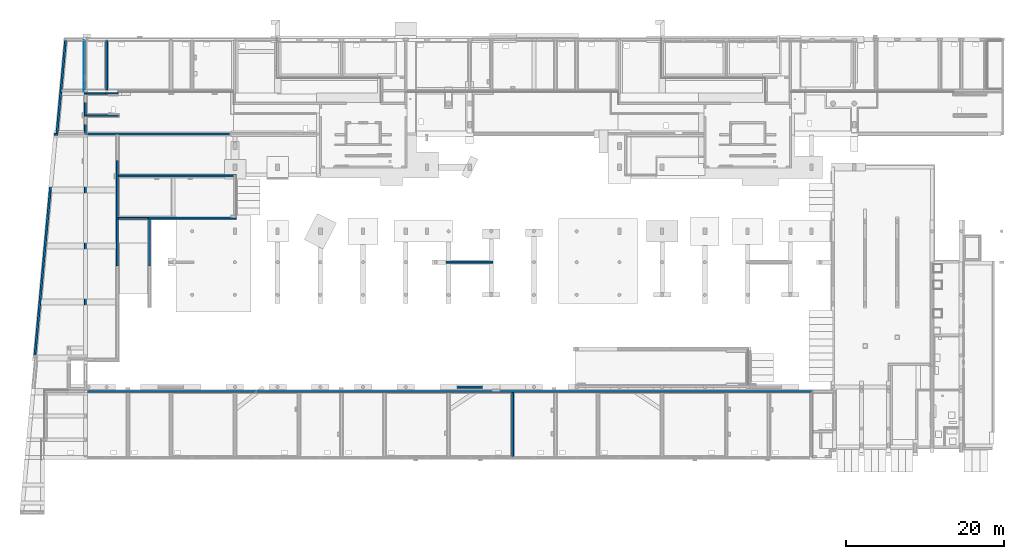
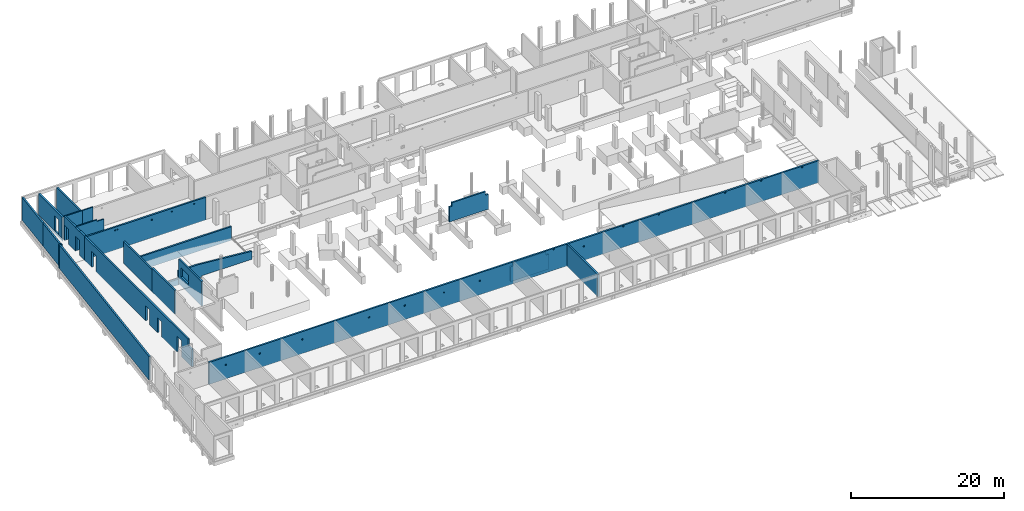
# One storey, part 40 of 60: 23 walls, 38 openings.
"""IFC2X3 building model written with IfcOpenShell, lengths in millimetres."""

from ifc_helpers import new_model, entity, si_unit, converted_unit, derived_unit, direction, frame, frame_2d, origin, origin_2d_with_axis, place, context, subcontext, project, spatial, rectangle, circle, extrude, clip, halfspace, material, layer, layer_set, layer_usage, type_object, element, save


model = new_model("IFC2X3")

# Units and contexts
model_context = context("Model", 3, precision=0.01, world=origin(), true_north=direction((6.12303176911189e-17, 1.0)))
body_context = subcontext(model_context, "Body", "Model", "MODEL_VIEW")
ifc_project = project(units=[si_unit("LENGTHUNIT", "METRE", prefix="MILLI"), si_unit("AREAUNIT", "SQUARE_METRE"), si_unit("VOLUMEUNIT", "CUBIC_METRE"), converted_unit("PLANEANGLEUNIT", "DEGREE", entity("IfcRatioMeasure", 0.0174532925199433), si_unit("PLANEANGLEUNIT", "RADIAN"), dimensions=[0, 0, 0, 0, 0, 0, 0]), si_unit("MASSUNIT", "GRAM", prefix="KILO"), derived_unit("MASSDENSITYUNIT", [(si_unit("MASSUNIT", "GRAM", prefix="KILO"), 1), (si_unit("LENGTHUNIT", "METRE"), -3)]), si_unit("TIMEUNIT", "SECOND"), si_unit("FREQUENCYUNIT", "HERTZ"), si_unit("THERMODYNAMICTEMPERATUREUNIT", "DEGREE_CELSIUS"), derived_unit("THERMALTRANSMITTANCEUNIT", [(si_unit("MASSUNIT", "GRAM", prefix="KILO"), 1), (si_unit("THERMODYNAMICTEMPERATUREUNIT", "KELVIN"), -1), (si_unit("TIMEUNIT", "SECOND"), -3)]), derived_unit("VOLUMETRICFLOWRATEUNIT", [(si_unit("LENGTHUNIT", "METRE"), 3), (si_unit("TIMEUNIT", "SECOND"), -1)]), si_unit("ELECTRICCURRENTUNIT", "AMPERE"), si_unit("ELECTRICVOLTAGEUNIT", "VOLT"), si_unit("POWERUNIT", "WATT"), si_unit("FORCEUNIT", "NEWTON", prefix="KILO"), si_unit("ILLUMINANCEUNIT", "LUX"), si_unit("LUMINOUSFLUXUNIT", "LUMEN"), si_unit("LUMINOUSINTENSITYUNIT", "CANDELA"), derived_unit("USERDEFINED", [(si_unit("MASSUNIT", "GRAM", prefix="KILO"), -1), (si_unit("LENGTHUNIT", "METRE"), -2), (si_unit("TIMEUNIT", "SECOND"), 3), (si_unit("LUMINOUSFLUXUNIT", "LUMEN"), 1)]), derived_unit("LINEARVELOCITYUNIT", [(si_unit("LENGTHUNIT", "METRE"), 1), (si_unit("TIMEUNIT", "SECOND"), -1)]), si_unit("PRESSUREUNIT", "PASCAL"), derived_unit("USERDEFINED", [(si_unit("LENGTHUNIT", "METRE"), -2), (si_unit("MASSUNIT", "GRAM", prefix="KILO"), 1), (si_unit("TIMEUNIT", "SECOND"), -2)])], contexts=[model_context])

# Site, building, storey
site_placement = place(None, origin())
site = spatial("IfcSite", under=ifc_project, at=site_placement, Name="Default", CompositionType="ELEMENT")
building_placement = place(site_placement, origin())
building = spatial("IfcBuilding", under=site, at=building_placement, Name="niet gebruiken", CompositionType="ELEMENT")
storey_placement = place(building_placement, origin())
storey = spatial("IfcBuildingStorey", under=building, at=storey_placement, Name="00 begane grond", CompositionType="ELEMENT", Elevation=0.0)

# Wall, openings
ifc_material_1 = material(Name="NLRS_f2_beton ihwg")
ifc_layer_1 = layer(ifc_material_1, 250.0)
ifc_layer_set_1 = layer_set([ifc_layer_1], Name="Basic Wall:NLRS_22.21_WA_beton ihwg d=250_gen")
ifc_layer_usage_1 = layer_usage(ifc_layer_set_1, "AXIS2", "NEGATIVE", 125.0)
wall_type_1 = type_object("IfcWallType", Name="Basic Wall:NLRS_22.21_WA_beton ihwg d=250_gen", PredefinedType="STANDARD", material=ifc_layer_set_1)
wall_1_placement = place(storey_placement, frame((26350.0, 41186.0, -70.0), z_axis=(0.0, 0.0, 1.0), x_axis=(-1.0, 0.0, 0.0)))
wall_1 = element("IfcWallStandardCase", 1, at=wall_1_placement, inside=storey, type_object=wall_type_1, material=ifc_layer_usage_1, Name="Basic Wall:NLRS_22.21_WA_beton ihwg d=250_gen", ObjectType="Basic Wall:NLRS_22.21_WA_beton ihwg d=250_gen", context=body_context, shape_type="SweptSolid", body=[
    extrude(rectangle(XDim=18124.9999999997, YDim=249.999999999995, at=frame_2d((9062.49999999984, 0.0), x_axis=(-1.0, 0.0))), origin(), (0.0, 0.0, 1.0), 3630.00000000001),
])
opening_1_placement = place(wall_1_placement, origin())
element("IfcOpeningElement", 2, at=opening_1_placement, cuts=wall_1, Name="Basic Wall:NLRS_22.21_WA_beton ihwg d=250_gen", ObjectType="Opening", context=body_context, shape_type="SweptSolid", body=[
    extrude(circle(Radius=125.0, at=origin_2d_with_axis()), frame((8175.0, -125.0, 2870.0), z_axis=(0.0, 1.0, 0.0), x_axis=(-1.0, 0.0, 0.0)), (0.0, 0.0, 1.0), 250.000000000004),
])
opening_2_placement = place(wall_1_placement, origin())
element("IfcOpeningElement", 3, at=opening_2_placement, cuts=wall_1, Name="Basic Wall:NLRS_22.21_WA_beton ihwg d=250_gen", ObjectType="Opening", context=body_context, shape_type="SweptSolid", body=[
    extrude(circle(Radius=100.0, at=origin_2d_with_axis()), frame((5174.9999760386, -125.0, 3140.0), z_axis=(0.0, 1.0, 0.0), x_axis=(-1.0, 0.0, 0.0)), (0.0, 0.0, 1.0), 250.000000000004),
])
opening_3_placement = place(wall_1_placement, origin())
element("IfcOpeningElement", 4, at=opening_3_placement, cuts=wall_1, Name="Basic Wall:NLRS_22.21_WA_beton ihwg d=250_gen", ObjectType="Opening", context=body_context, shape_type="SweptSolid", body=[
    extrude(circle(Radius=100.0, at=frame_2d((0.0, -5.41433564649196e-13), x_axis=(1.0, 0.0))), frame((1789.9999760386, -125.0, 3170.0), z_axis=(0.0, 1.0, 0.0), x_axis=(-1.0, 0.0, 0.0)), (0.0, 0.0, 1.0), 250.000000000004),
])
opening_4_placement = place(wall_1_placement, origin())
element("IfcOpeningElement", 5, at=opening_4_placement, cuts=wall_1, Name="Basic Wall:NLRS_22.21_WA_beton ihwg d=250_gen", ObjectType="Opening", context=body_context, shape_type="SweptSolid", body=[
    extrude(circle(Radius=100.0, at=frame_2d((0.0, -5.41433564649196e-13), x_axis=(1.0, 0.0))), frame((13375.0, -125.0, 3140.0), z_axis=(0.0, 1.0, 0.0), x_axis=(-1.0, 0.0, 0.0)), (0.0, 0.0, 1.0), 250.000000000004),
])
opening_5_placement = place(wall_1_placement, origin())
element("IfcOpeningElement", 6, at=opening_5_placement, cuts=wall_1, Name="Basic Wall:NLRS_22.21_WA_beton ihwg d=250_gen", ObjectType="Opening", context=body_context, shape_type="SweptSolid", body=[
    extrude(circle(Radius=100.0, at=frame_2d((0.0, -5.41433564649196e-13), x_axis=(1.0, 0.0))), frame((13725.0, -125.0, 3140.0), z_axis=(0.0, 1.0, 0.0), x_axis=(-1.0, 0.0, 0.0)), (0.0, 0.0, 1.0), 250.000000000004),
])

# Wall, opening
ifc_layer_usage_2 = layer_usage(ifc_layer_set_1, "AXIS2", "NEGATIVE", 125.0)
wall_2_placement = place(storey_placement, frame((8055.0, 52986.0, -160.0), z_axis=(0.0, 0.0, 1.0), x_axis=(0.0, -1.0, 0.0)))
wall_2 = element("IfcWallStandardCase", 7, at=wall_2_placement, inside=storey, type_object=wall_type_1, material=ifc_layer_usage_2, Name="Basic Wall:NLRS_22.21_WA_beton ihwg d=250_gen", ObjectType="Basic Wall:NLRS_22.21_WA_beton ihwg d=250_gen", context=body_context, shape_type="SweptSolid", body=[
    extrude(rectangle(XDim=6239.99999999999, YDim=249.999999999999, at=frame_2d((3120.0, -2.1316282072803e-14), x_axis=(-1.0, 0.0))), origin(), (0.0, 0.0, 1.0), 3509.99999999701),
])
opening_6_placement = place(wall_2_placement, origin())
element("IfcOpeningElement", 8, at=opening_6_placement, cuts=wall_2, Name="Basic Wall:NLRS_22.21_WA_beton ihwg d=250_gen", ObjectType="Opening", context=body_context, shape_type="SweptSolid", body=[
    extrude(rectangle(XDim=2470.0, YDim=1006.0, at=origin_2d_with_axis()), frame((4737.0, -1649.0, 1305.0), z_axis=(0.0, 1.0, 0.0), x_axis=(0.0, 0.0, 1.0)), (0.0, 0.0, 1.0), 3048.0),
])

ifc_layer_usage_3 = layer_usage(ifc_layer_set_1, "AXIS2", "NEGATIVE", 125.0)
wall_3_placement = place(storey_placement, frame((10800.0, 52986.0, -160.0), z_axis=(0.0, 0.0, 1.0), x_axis=(0.0, -1.0, 0.0)))
wall_3 = element("IfcWallStandardCase", 9, at=wall_3_placement, inside=storey, type_object=wall_type_1, material=ifc_layer_usage_3, Name="Basic Wall:NLRS_22.21_WA_beton ihwg d=250_gen", ObjectType="Basic Wall:NLRS_22.21_WA_beton ihwg d=250_gen", context=body_context, shape_type="SweptSolid", body=[
    extrude(rectangle(XDim=6239.99999999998, YDim=249.999999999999, at=frame_2d((3119.99999999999, 5.18696197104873e-13), x_axis=(-1.0, 0.0))), origin(), (0.0, 0.0, 1.0), 3509.99999999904),
])
opening_7_placement = place(wall_3_placement, origin())
element("IfcOpeningElement", 10, at=opening_7_placement, cuts=wall_3, Name="Basic Wall:NLRS_22.21_WA_beton ihwg d=250_gen", ObjectType="Recess", context=body_context, shape_type="SweptSolid", body=[
    extrude(rectangle(XDim=890.0, YDim=49.9999999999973, at=origin_2d_with_axis()), frame((4490.0, 85.0, 515.0), z_axis=(0.0, 1.0, 0.0), x_axis=(0.0, 0.0, -1.0)), (0.0, 0.0, 1.0), 40.0000000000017),
])

ifc_layer_usage_4 = layer_usage(ifc_layer_set_1, "AXIS2", "NEGATIVE", 125.0)
wall_4_placement = place(storey_placement, frame((62100.0, 8496.0, -160.0), z_axis=(0.0, 0.0, 1.0), x_axis=(0.0, -1.0, 0.0)))
wall_4 = element("IfcWallStandardCase", 11, at=wall_4_placement, inside=storey, type_object=wall_type_1, material=ifc_layer_usage_4, Name="Basic Wall:NLRS_22.21_WA_beton ihwg d=250_gen", ObjectType="Basic Wall:NLRS_22.21_WA_beton ihwg d=250_gen", context=body_context, shape_type="SweptSolid", body=[
    extrude(rectangle(XDim=8075.99999999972, YDim=249.999999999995, at=frame_2d((4037.99999999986, 0.0), x_axis=(-1.0, 0.0))), origin(), (0.0, 0.0, 1.0), 3510.00000000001),
])
opening_8_placement = place(wall_4_placement, origin())
element("IfcOpeningElement", 12, at=opening_8_placement, cuts=wall_4, Name="Basic Wall:NLRS_22.21_WA_beton ihwg d=250_gen", ObjectType="Recess", context=body_context, shape_type="SweptSolid", body=[
    extrude(rectangle(XDim=940.0, YDim=50.0000000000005, at=frame_2d((0.0, -5.41788836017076e-13), x_axis=(1.0, 0.0))), frame((1750.0, -125.0, 540.0), z_axis=(0.0, 1.0, 0.0), x_axis=(0.0, 0.0, -1.0)), (0.0, 0.0, 1.0), 40.0000000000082),
])

# Wall, openings
ifc_layer_usage_5 = layer_usage(ifc_layer_set_1, "AXIS2", "NEGATIVE", 125.0)
wall_5_placement = place(storey_placement, frame((7975.0, 8621.0, -160.0)))
wall_5 = element("IfcWallStandardCase", 13, at=wall_5_placement, inside=storey, type_object=wall_type_1, material=ifc_layer_usage_5, Name="Basic Wall:NLRS_22.21_WA_beton ihwg d=250_gen", ObjectType="Basic Wall:NLRS_22.21_WA_beton ihwg d=250_gen", context=body_context, shape_type="SweptSolid", body=[
    extrude(rectangle(XDim=92049.9999999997, YDim=249.999999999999, at=frame_2d((46024.9999999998, 1.35003119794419e-13), x_axis=(-1.0, 0.0))), origin(), (0.0, 0.0, 1.0), 3510.00000000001),
])
opening_9_placement = place(wall_5_placement, origin())
element("IfcOpeningElement", 14, at=opening_9_placement, cuts=wall_5, Name="Basic Wall:NLRS_22.21_WA_beton ihwg d=250_gen", ObjectType="Opening", context=body_context, shape_type="SweptSolid", body=[
    extrude(circle(Radius=125.0, at=frame_2d((0.0, -5.41433564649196e-13), x_axis=(1.0, 0.0))), frame((2565.0, -125.0, 2260.0), z_axis=(0.0, 1.0, 0.0), x_axis=(1.0, 0.0, 0.0)), (0.0, 0.0, 1.0), 249.999999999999),
])
opening_10_placement = place(wall_5_placement, origin())
element("IfcOpeningElement", 15, at=opening_10_placement, cuts=wall_5, Name="Basic Wall:NLRS_22.21_WA_beton ihwg d=250_gen", ObjectType="Opening", context=body_context, shape_type="SweptSolid", body=[
    extrude(circle(Radius=100.0, at=frame_2d((0.0, -2.70716782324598e-13), x_axis=(1.0, 0.0))), frame((35485.0, -125.0, 2260.0), z_axis=(0.0, 1.0, 0.0), x_axis=(1.0, 0.0, 0.0)), (0.0, 0.0, 1.0), 249.999999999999),
])
opening_11_placement = place(wall_5_placement, origin())
element("IfcOpeningElement", 16, at=opening_11_placement, cuts=wall_5, Name="Basic Wall:NLRS_22.21_WA_beton ihwg d=250_gen", ObjectType="Opening", context=body_context, shape_type="SweptSolid", body=[
    extrude(circle(Radius=125.0, at=frame_2d((0.0, -5.41433564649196e-13), x_axis=(1.0, 0.0))), frame((29565.0, -125.0, 2260.0), z_axis=(0.0, 1.0, 0.0), x_axis=(1.0, 0.0, 0.0)), (0.0, 0.0, 1.0), 250.000000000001),
])
opening_12_placement = place(wall_5_placement, origin())
element("IfcOpeningElement", 17, at=opening_12_placement, cuts=wall_5, Name="Basic Wall:NLRS_22.21_WA_beton ihwg d=250_gen", ObjectType="Opening", context=body_context, shape_type="SweptSolid", body=[
    extrude(circle(Radius=125.0, at=frame_2d((0.0, -5.41433564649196e-13), x_axis=(1.0, 0.0))), frame((24165.0, -125.0, 2260.0), z_axis=(0.0, 1.0, 0.0), x_axis=(1.0, 0.0, 0.0)), (0.0, 0.0, 1.0), 249.999999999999),
])
opening_13_placement = place(wall_5_placement, origin())
element("IfcOpeningElement", 18, at=opening_13_placement, cuts=wall_5, Name="Basic Wall:NLRS_22.21_WA_beton ihwg d=250_gen", ObjectType="Opening", context=body_context, shape_type="SweptSolid", body=[
    extrude(circle(Radius=125.0, at=frame_2d((0.0, -5.41433564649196e-13), x_axis=(1.0, 0.0))), frame((14104.9999306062, -125.0, 2260.0), z_axis=(0.0, 1.0, 0.0), x_axis=(1.0, 0.0, 0.0)), (0.0, 0.0, 1.0), 249.999999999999),
])
opening_14_placement = place(wall_5_placement, origin())
element("IfcOpeningElement", 19, at=opening_14_placement, cuts=wall_5, Name="Basic Wall:NLRS_22.21_WA_beton ihwg d=250_gen", ObjectType="Opening", context=body_context, shape_type="SweptSolid", body=[
    extrude(circle(Radius=125.0, at=frame_2d((0.0, -5.41433564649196e-13), x_axis=(1.0, 0.0))), frame((7685.0, -125.0, 2260.0), z_axis=(0.0, 1.0, 0.0), x_axis=(1.0, 0.0, 0.0)), (0.0, 0.0, 1.0), 249.999999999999),
])
opening_15_placement = place(wall_5_placement, origin())
element("IfcOpeningElement", 20, at=opening_15_placement, cuts=wall_5, Name="Basic Wall:NLRS_22.21_WA_beton ihwg d=250_gen", ObjectType="Opening", context=body_context, shape_type="SweptSolid", body=[
    extrude(circle(Radius=125.0, at=frame_2d((0.0, -5.41433564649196e-13), x_axis=(1.0, 0.0))), frame((40895.0, -125.0, 2260.0), z_axis=(0.0, 1.0, 0.0), x_axis=(1.0, 0.0, 0.0)), (0.0, 0.0, 1.0), 250.000000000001),
])
opening_16_placement = place(wall_5_placement, origin())
element("IfcOpeningElement", 21, at=opening_16_placement, cuts=wall_5, Name="Basic Wall:NLRS_22.21_WA_beton ihwg d=250_gen", ObjectType="Opening", context=body_context, shape_type="SweptSolid", body=[
    extrude(circle(Radius=125.0, at=frame_2d((0.0, -5.41433564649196e-13), x_axis=(1.0, 0.0))), frame((89535.0, -125.0, 3360.0), z_axis=(0.0, 1.0, 0.0), x_axis=(1.0, 0.0, 0.0)), (0.0, 0.0, 1.0), 250.000000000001),
])
opening_17_placement = place(wall_5_placement, origin())
element("IfcOpeningElement", 22, at=opening_17_placement, cuts=wall_5, Name="Basic Wall:NLRS_22.21_WA_beton ihwg d=250_gen", ObjectType="Opening", context=body_context, shape_type="SweptSolid", body=[
    extrude(circle(Radius=125.0, at=frame_2d((0.0, -5.41433564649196e-13), x_axis=(1.0, 0.0))), frame((83320.0, -125.0, 3360.0), z_axis=(0.0, 1.0, 0.0), x_axis=(1.0, 0.0, 0.0)), (0.0, 0.0, 1.0), 249.999999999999),
])
opening_18_placement = place(wall_5_placement, origin())
element("IfcOpeningElement", 23, at=opening_18_placement, cuts=wall_5, Name="Basic Wall:NLRS_22.21_WA_beton ihwg d=250_gen", ObjectType="Opening", context=body_context, shape_type="SweptSolid", body=[
    extrude(circle(Radius=125.0, at=frame_2d((0.0, -5.41433564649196e-13), x_axis=(1.0, 0.0))), frame((77920.0, -125.0, 3360.0), z_axis=(0.0, 1.0, 0.0), x_axis=(1.0, 0.0, 0.0)), (0.0, 0.0, 1.0), 249.999999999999),
])
opening_19_placement = place(wall_5_placement, origin())
element("IfcOpeningElement", 24, at=opening_19_placement, cuts=wall_5, Name="Basic Wall:NLRS_22.21_WA_beton ihwg d=250_gen", ObjectType="Opening", context=body_context, shape_type="SweptSolid", body=[
    extrude(circle(Radius=125.0, at=frame_2d((0.0, -5.41433564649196e-13), x_axis=(1.0, 0.0))), frame((67900.0, -125.0, 3360.0), z_axis=(0.0, 1.0, 0.0), x_axis=(1.0, 0.0, 0.0)), (0.0, 0.0, 1.0), 249.999999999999),
])
opening_20_placement = place(wall_5_placement, origin())
element("IfcOpeningElement", 25, at=opening_20_placement, cuts=wall_5, Name="Basic Wall:NLRS_22.21_WA_beton ihwg d=250_gen", ObjectType="Opening", context=body_context, shape_type="SweptSolid", body=[
    extrude(circle(Radius=125.0, at=frame_2d((0.0, -5.41433564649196e-13), x_axis=(1.0, 0.0))), frame((62525.0, -125.0, 3360.0), z_axis=(0.0, 1.0, 0.0), x_axis=(1.0, 0.0, 0.0)), (0.0, 0.0, 1.0), 250.000000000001),
])
opening_21_placement = place(wall_5_placement, origin())
element("IfcOpeningElement", 26, at=opening_21_placement, cuts=wall_5, Name="Basic Wall:NLRS_22.21_WA_beton ihwg d=250_gen", ObjectType="Opening", context=body_context, shape_type="SweptSolid", body=[
    extrude(circle(Radius=125.0, at=frame_2d((0.0, -5.41433564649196e-13), x_axis=(1.0, 0.0))), frame((56565.0, -125.0, 2260.0), z_axis=(0.0, 1.0, 0.0), x_axis=(1.0, 0.0, 0.0)), (0.0, 0.0, 1.0), 249.999999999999),
])
opening_22_placement = place(wall_5_placement, origin())
element("IfcOpeningElement", 27, at=opening_22_placement, cuts=wall_5, Name="Basic Wall:NLRS_22.21_WA_beton ihwg d=250_gen", ObjectType="Opening", context=body_context, shape_type="SweptSolid", body=[
    extrude(circle(Radius=125.0, at=frame_2d((0.0, -5.41433564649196e-13), x_axis=(1.0, 0.0))), frame((52025.0, -125.0, 3360.0), z_axis=(0.0, 1.0, 0.0), x_axis=(1.0, 0.0, 0.0)), (0.0, 0.0, 1.0), 250.000000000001),
])

# Walls
ifc_material_2 = material(Name="NLRS_f2_beton prefab")
ifc_layer_2 = layer(ifc_material_2, 250.0)
ifc_layer_set_2 = layer_set([ifc_layer_2], Name="Basic Wall:NLRS_21.21_WA_beton prefab d=250_gen")
ifc_layer_usage_6 = layer_usage(ifc_layer_set_2, "AXIS2", "NEGATIVE", 125.0)
wall_type_2 = type_object("IfcWallType", Name="Basic Wall:NLRS_21.21_WA_beton prefab d=250_gen", PredefinedType="STANDARD", material=ifc_layer_set_2)
wall_6_placement = place(storey_placement, frame((4311.35704345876, 41020.319883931, -40.0), z_axis=(0.0, 0.0, 1.0), x_axis=(-0.0922987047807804, -0.995731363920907, 0.0)))
element("IfcWallStandardCase", 28, at=wall_6_placement, inside=storey, type_object=wall_type_2, material=ifc_layer_usage_6, Name="Basic Wall:NLRS_21.21_WA_beton prefab d=250_gen", ObjectType="Basic Wall:NLRS_21.21_WA_beton prefab d=250_gen", context=body_context, shape_type="SweptSolid", body=[
    extrude(rectangle(XDim=28026.4603140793, YDim=250.000000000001, at=frame_2d((14013.2301570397, -2.62900812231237e-13), x_axis=(-1.0, 0.0))), origin(), (0.0, 0.0, 1.0), 3760.00000000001),
])
ifc_layer_usage_7 = layer_usage(ifc_layer_set_2, "AXIS2", "NEGATIVE", 125.0)
wall_7_placement = place(storey_placement, frame((4999.76909310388, 46496.4629439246, -40.0), z_axis=(0.0, 0.0, 1.0), x_axis=(-0.0922993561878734, -0.995731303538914, 0.0)))
element("IfcWallStandardCase", 29, at=wall_7_placement, inside=storey, type_object=wall_type_2, material=ifc_layer_usage_7, Name="Basic Wall:NLRS_21.21_WA_beton prefab d=250_gen", ObjectType="Basic Wall:NLRS_21.21_WA_beton prefab d=250_gen", context=body_context, shape_type="SweptSolid", body=[
    extrude(rectangle(XDim=5266.28052932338, YDim=250.0, at=frame_2d((2633.14026466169, -2.27373675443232e-13), x_axis=(-1.0, 0.0))), origin(), (0.0, 0.0, 1.0), 3640.00000000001),
])
ifc_layer_usage_8 = layer_usage(ifc_layer_set_2, "AXIS2", "NEGATIVE", 125.0)
wall_8_placement = place(storey_placement, frame((5601.31701080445, 52986.0, -40.0), z_axis=(0.0, 0.0, 1.0), x_axis=(-0.0922993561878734, -0.995731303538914, 0.0)))
element("IfcWallStandardCase", 30, at=wall_8_placement, inside=storey, type_object=wall_type_2, material=ifc_layer_usage_8, Name="Basic Wall:NLRS_21.21_WA_beton prefab d=250_gen", ObjectType="Basic Wall:NLRS_21.21_WA_beton prefab d=250_gen", context=body_context, shape_type="SweptSolid", body=[
    extrude(rectangle(XDim=6517.35767772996, YDim=250.000000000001, at=frame_2d((3258.67883886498, 1.13686837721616e-13), x_axis=(-1.0, 0.0))), origin(), (0.0, 0.0, 1.0), 3640.00000000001),
])
ifc_layer_usage_9 = layer_usage(ifc_layer_set_2, "AXIS2", "NEGATIVE", 125.0)
wall_9_placement = place(storey_placement, frame((4198.426268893, 41156.3053871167, -40.0), z_axis=(0.0, 0.0, 1.0), x_axis=(0.995744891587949, -0.092152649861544, 0.0)))
element("IfcWallStandardCase", 31, at=wall_9_placement, inside=storey, type_object=wall_type_2, material=ifc_layer_usage_9, Name="Basic Wall:NLRS_21.21_WA_beton prefab d=250_gen", ObjectType="Basic Wall:NLRS_21.21_WA_beton prefab d=250_gen", context=body_context, shape_type="SweptSolid", body=[
    extrude(rectangle(XDim=430.029035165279, YDim=250.0, at=frame_2d((215.01451758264, 1.4210854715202e-14), x_axis=(-1.0, 0.0))), origin(), (0.0, 0.0, 1.0), 3759.99999999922),
])
ifc_layer_usage_10 = layer_usage(ifc_layer_set_2, "AXIS2", "NEGATIVE", 125.0)
wall_10_placement = place(storey_placement, frame((12275.0, 30551.0, -372.0)))
element("IfcWallStandardCase", 32, at=wall_10_placement, inside=storey, type_object=wall_type_2, material=ifc_layer_usage_10, Name="Basic Wall:NLRS_21.21_WA_beton prefab d=250_gen", ObjectType="Basic Wall:NLRS_21.21_WA_beton prefab d=250_gen", context=body_context, shape_type="SweptSolid", body=[
    extrude(rectangle(XDim=3799.9999999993, YDim=250.000000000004, at=frame_2d((1899.99999999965, -4.9737991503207e-14), x_axis=(-1.0, 0.0))), origin(), (0.0, 0.0, 1.0), 922.0),
])

# Wall, openings
ifc_layer_3 = layer(ifc_material_2, 250.0)
ifc_layer_set_3 = layer_set([ifc_layer_3], Name="Basic Wall:NLRS_22.21_WA_beton prefab d=250_gen")
ifc_layer_usage_11 = layer_usage(ifc_layer_set_3, "AXIS2", "NEGATIVE", 125.0)
wall_type_3 = type_object("IfcWallType", Name="Basic Wall:NLRS_22.21_WA_beton prefab d=250_gen", PredefinedType="STANDARD", material=ifc_layer_set_3)
wall_11_placement = place(storey_placement, frame((8100.0, 41061.0, -40.0), z_axis=(0.0, 0.0, 1.0), x_axis=(0.0, -1.0, 0.0)))
wall_11 = element("IfcWallStandardCase", 33, at=wall_11_placement, inside=storey, type_object=wall_type_3, material=ifc_layer_usage_11, Name="Basic Wall:NLRS_22.21_WA_beton prefab d=250_gen", ObjectType="Basic Wall:NLRS_22.21_WA_beton prefab d=250_gen", context=body_context, shape_type="SweptSolid", body=[
    extrude(rectangle(XDim=28074.9999999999, YDim=249.999999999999, at=frame_2d((14037.5, 0.0), x_axis=(-1.0, 0.0))), origin(), (0.0, 0.0, 1.0), 3780.0),
])
opening_23_placement = place(wall_11_placement, origin())
element("IfcOpeningElement", 34, at=opening_23_placement, cuts=wall_11, Name="Basic Wall:NLRS_22.21_WA_beton prefab d=250_gen", ObjectType="Opening", context=body_context, shape_type="SweptSolid", body=[
    extrude(rectangle(XDim=2550.0, YDim=1200.0, at=frame_2d((2.1600499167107e-12, -1.13686837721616e-13), x_axis=(0.0, 1.0))), frame((24775.0, -1399.0, 1245.0), z_axis=(0.0, 1.0, 0.0), x_axis=(-1.0, 0.0, 0.0)), (0.0, 0.0, 1.0), 3048.0),
])
opening_24_placement = place(wall_11_placement, origin())
element("IfcOpeningElement", 35, at=opening_24_placement, cuts=wall_11, Name="Basic Wall:NLRS_22.21_WA_beton prefab d=250_gen", ObjectType="Opening", context=body_context, shape_type="SweptSolid", body=[
    extrude(rectangle(XDim=2550.0, YDim=1175.0, at=frame_2d((-4.32009983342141e-12, 0.0), x_axis=(0.0, 1.0))), frame((2517.49999999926, -1399.0, 1275.0), z_axis=(0.0, 1.0, 0.0), x_axis=(-1.0, 0.0, 0.0)), (0.0, 0.0, 1.0), 3048.0),
])
opening_25_placement = place(wall_11_placement, origin())
element("IfcOpeningElement", 36, at=opening_25_placement, cuts=wall_11, Name="Basic Wall:NLRS_22.21_WA_beton prefab d=250_gen", ObjectType="Opening", context=body_context, shape_type="SweptSolid", body=[
    extrude(rectangle(XDim=2420.0, YDim=1025.0, at=frame_2d((0.0, 1.13686837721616e-13), x_axis=(0.0, 1.0))), frame((16532.8772383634, -1399.0, 1210.0), z_axis=(0.0, 1.0, 0.0), x_axis=(-1.0, 0.0, 0.0)), (0.0, 0.0, 1.0), 3048.0),
])
opening_26_placement = place(wall_11_placement, origin())
element("IfcOpeningElement", 37, at=opening_26_placement, cuts=wall_11, Name="Basic Wall:NLRS_22.21_WA_beton prefab d=250_gen", ObjectType="Opening", context=body_context, shape_type="SweptSolid", body=[
    extrude(rectangle(XDim=2420.0, YDim=1025.0, at=frame_2d((0.0, 1.13686837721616e-13), x_axis=(0.0, 1.0))), frame((19652.4999999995, -1399.0, 1210.0), z_axis=(0.0, 1.0, 0.0), x_axis=(-1.0, 0.0, 0.0)), (0.0, 0.0, 1.0), 3048.0),
])
opening_27_placement = place(wall_11_placement, origin())
element("IfcOpeningElement", 38, at=opening_27_placement, cuts=wall_11, Name="Basic Wall:NLRS_22.21_WA_beton prefab d=250_gen", ObjectType="Opening", context=body_context, shape_type="SweptSolid", body=[
    extrude(rectangle(XDim=1039.99999999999, YDim=1025.00000000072, at=origin_2d_with_axis()), frame((27562.4999999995, 125.0, 3260.0), z_axis=(0.0, -1.0, 0.0), x_axis=(0.0, 0.0, 1.0)), (0.0, 0.0, 1.0), 250.0),
])

ifc_layer_usage_12 = layer_usage(ifc_layer_set_3, "AXIS2", "NEGATIVE", 125.0)
wall_12_placement = place(storey_placement, frame((16200.0, 30426.0, -170.0), z_axis=(0.0, 0.0, 1.0), x_axis=(0.0, -1.0, 0.0)))
wall_12 = element("IfcWallStandardCase", 39, at=wall_12_placement, inside=storey, type_object=wall_type_3, material=ifc_layer_usage_12, Name="Basic Wall:NLRS_22.21_WA_beton prefab d=250_gen", ObjectType="Basic Wall:NLRS_22.21_WA_beton prefab d=250_gen", context=body_context, shape_type="SweptSolid", body=[
    extrude(rectangle(XDim=5934.99999999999, YDim=249.999999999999, at=frame_2d((2967.5, 0.0), x_axis=(-1.0, 0.0))), origin(), (0.0, 0.0, 1.0), 3910.00000000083),
])
opening_28_placement = place(wall_12_placement, origin())
element("IfcOpeningElement", 40, at=opening_28_placement, cuts=wall_12, Name="Basic Wall:NLRS_22.21_WA_beton prefab d=250_gen", ObjectType="Opening", context=body_context, shape_type="SweptSolid", body=[
    extrude(rectangle(XDim=1500.0, YDim=2000.0, at=frame_2d((-2.1600499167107e-12, -1.13686837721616e-13), x_axis=(0.0, 1.0))), frame((1550.0, -1399.0, 2150.0), z_axis=(0.0, 1.0, 0.0), x_axis=(-1.0, 0.0, 0.0)), (0.0, 0.0, 1.0), 3048.0),
])
opening_29_placement = place(wall_12_placement, origin())
element("IfcOpeningElement", 41, at=opening_29_placement, cuts=wall_12, Name="Basic Wall:NLRS_22.21_WA_beton prefab d=250_gen", ObjectType="Opening", context=body_context, shape_type="SweptSolid", body=[
    extrude(rectangle(XDim=1990.0, YDim=19.9999999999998, at=frame_2d((1.13686837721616e-13, -2.16537898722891e-12), x_axis=(1.0, 0.0))), frame((10.0, 125.0, 995.0), z_axis=(0.0, -1.0, 0.0), x_axis=(0.0, 0.0, 1.0)), (0.0, 0.0, 1.0), 250.0),
])

ifc_layer_usage_13 = layer_usage(ifc_layer_set_3, "AXIS2", "NEGATIVE", 125.0)
wall_13_placement = place(storey_placement, frame((8100.0, 41061.0, -40.0), z_axis=(0.0, 0.0, 1.0), x_axis=(0.0, 1.0, 0.0)))
wall_13 = element("IfcWallStandardCase", 42, at=wall_13_placement, inside=storey, type_object=wall_type_3, material=ifc_layer_usage_13, Name="Basic Wall:NLRS_22.21_WA_beton prefab d=250_gen", ObjectType="Basic Wall:NLRS_22.21_WA_beton prefab d=250_gen", context=body_context, shape_type="SweptSolid", body=[
    extrude(rectangle(XDim=5295.00000000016, YDim=249.999999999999, at=frame_2d((2647.50000000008, -2.1316282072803e-13), x_axis=(-1.0, 0.0))), origin(), (0.0, 0.0, 1.0), 3850.0),
])
opening_30_placement = place(wall_13_placement, origin())
element("IfcOpeningElement", 43, at=opening_30_placement, cuts=wall_13, Name="Basic Wall:NLRS_22.21_WA_beton prefab d=250_gen", ObjectType="Opening", context=body_context, shape_type="SweptSolid", body=[
    extrude(rectangle(XDim=2420.0, YDim=1025.0, at=frame_2d((4.32009983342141e-12, 1.13686837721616e-13), x_axis=(0.0, 1.0))), frame((1822.50000000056, -1399.0, 1210.0), z_axis=(0.0, 1.0, 0.0), x_axis=(-1.0, 0.0, 0.0)), (0.0, 0.0, 1.0), 3048.0),
])
opening_31_placement = place(wall_13_placement, origin())
element("IfcOpeningElement", 44, at=opening_31_placement, cuts=wall_13, Name="Basic Wall:NLRS_22.21_WA_beton prefab d=250_gen", ObjectType="Opening", context=body_context, shape_type="SweptSolid", body=[
    extrude(rectangle(XDim=2420.0, YDim=1025.0, at=frame_2d((4.32009983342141e-12, 1.13686837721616e-13), x_axis=(0.0, 1.0))), frame((4602.50000000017, -1399.0, 1210.0), z_axis=(0.0, 1.0, 0.0), x_axis=(-1.0, 0.0, 0.0)), (0.0, 0.0, 1.0), 3048.0),
])
opening_32_placement = place(wall_13_placement, origin())
element("IfcOpeningElement", 45, at=opening_32_placement, cuts=wall_13, Name="Basic Wall:NLRS_22.21_WA_beton prefab d=250_gen", ObjectType="Opening", context=body_context, shape_type="SweptSolid", body=[
    extrude(rectangle(XDim=69.999999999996, YDim=1025.0, at=frame_2d((4.32009983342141e-12, 1.08002495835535e-12), x_axis=(0.0, 1.0))), frame((1822.50000000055, 125.0, 3815.0), z_axis=(0.0, -1.0, 0.0), x_axis=(-1.0, 0.0, 0.0)), (0.0, 0.0, 1.0), 250.0),
])

# Walls
ifc_layer_usage_14 = layer_usage(ifc_layer_set_3, "AXIS2", "NEGATIVE", 125.0)
wall_14_placement = place(storey_placement, frame((12150.0, 30426.0, -40.0), z_axis=(0.0, 0.0, 1.0), x_axis=(0.0, -1.0, 0.0)))
element("IfcWallStandardCase", 46, at=wall_14_placement, inside=storey, type_object=wall_type_3, material=ifc_layer_usage_14, Name="Basic Wall:NLRS_22.21_WA_beton prefab d=250_gen", ObjectType="Basic Wall:NLRS_22.21_WA_beton prefab d=250_gen", context=body_context, shape_type="SweptSolid", body=[
    extrude(rectangle(XDim=5945.0, YDim=249.999999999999, at=frame_2d((2972.5, 3.41060513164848e-13), x_axis=(-1.0, 0.0))), origin(), (0.0, 0.0, 1.0), 3780.00000000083),
])
ifc_layer_usage_15 = layer_usage(ifc_layer_set_3, "AXIS2", "NEGATIVE", 125.0)
wall_15_placement = place(storey_placement, frame((12150.0, 37856.0, -40.0), z_axis=(0.0, 0.0, 1.0), x_axis=(0.0, -1.0, 0.0)))
element("IfcWallStandardCase", 47, at=wall_15_placement, inside=storey, type_object=wall_type_3, material=ifc_layer_usage_15, Name="Basic Wall:NLRS_22.21_WA_beton prefab d=250_gen", ObjectType="Basic Wall:NLRS_22.21_WA_beton prefab d=250_gen", context=body_context, shape_type="SweptSolid", body=[
    extrude(rectangle(XDim=7410.00000000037, YDim=249.999999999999, at=frame_2d((3705.00000000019, 0.0), x_axis=(-1.0, 0.0))), origin(), (0.0, 0.0, 1.0), 3495.00000000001),
])

# Wall, opening
ifc_layer_usage_16 = layer_usage(ifc_layer_set_3, "AXIS2", "NEGATIVE", 125.0)
wall_16_placement = place(storey_placement, frame((16075.0, 30551.0, -372.0)))
wall_16 = element("IfcWallStandardCase", 48, at=wall_16_placement, inside=storey, type_object=wall_type_3, material=ifc_layer_usage_16, Name="Basic Wall:NLRS_22.21_WA_beton prefab d=250_gen", ObjectType="Basic Wall:NLRS_22.21_WA_beton prefab d=250_gen", context=body_context, shape_type="Clipping", body=[
    clip(extrude(rectangle(XDim=11075.0, YDim=250.000000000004, at=frame_2d((5537.50000000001, -6.96331881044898e-13), x_axis=(-1.0, 0.0))), origin(), (0.0, 0.0, 1.0), 2172.0), halfspace(frame((2874.26287256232, -125.0, 2172.0), z_axis=(0.0838364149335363, 0.0, 0.996479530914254), x_axis=(0.0, 1.0, 0.0)), False)),
])
opening_33_placement = place(wall_16_placement, origin())
element("IfcOpeningElement", 49, at=opening_33_placement, cuts=wall_16, Name="Basic Wall:NLRS_22.21_WA_beton prefab d=250_gen", ObjectType="Opening", context=body_context, shape_type="SweptSolid", body=[
    extrude(rectangle(XDim=202.0, YDim=7629.99999999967, at=frame_2d((-2.04636307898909e-12, 0.0), x_axis=(0.0, 1.0))), frame((7260.0, 125.0, 101.0), z_axis=(0.0, -1.0, 0.0), x_axis=(1.0, 0.0, 0.0)), (0.0, 0.0, 1.0), 250.0),
])

# Walls
ifc_layer_usage_17 = layer_usage(ifc_layer_set_3, "AXIS2", "NEGATIVE", 125.0)
wall_17_placement = place(storey_placement, frame((12275.0, 35881.0, -372.0)))
element("IfcWallStandardCase", 50, at=wall_17_placement, inside=storey, type_object=wall_type_3, material=ifc_layer_usage_17, Name="Basic Wall:NLRS_22.21_WA_beton prefab d=250_gen", ObjectType="Basic Wall:NLRS_22.21_WA_beton prefab d=250_gen", context=body_context, shape_type="SweptSolid", body=[
    extrude(rectangle(XDim=14874.9999999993, YDim=250.000000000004, at=frame_2d((7437.49999999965, -2.20268248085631e-13), x_axis=(-1.0, 0.0))), origin(), (0.0, 0.0, 1.0), 2172.0),
])
ifc_layer_4 = layer(ifc_material_2, 180.0)
ifc_layer_set_4 = layer_set([ifc_layer_4], Name="Basic Wall:NLRS_22.21_WA_beton prefab d=180_gen")
ifc_layer_usage_18 = layer_usage(ifc_layer_set_4, "AXIS2", "NEGATIVE", 90.0)
wall_type_4 = type_object("IfcWallType", Name="Basic Wall:NLRS_22.21_WA_beton prefab d=180_gen", PredefinedType="STANDARD", material=ifc_layer_set_4)
wall_18_placement = place(storey_placement, frame((10670.0, 46266.0, -40.0), z_axis=(0.0, 0.0, 1.0), x_axis=(-1.0, 0.0, 0.0)))
element("IfcWallStandardCase", 51, at=wall_18_placement, inside=storey, type_object=wall_type_4, material=ifc_layer_usage_18, Name="Basic Wall:NLRS_22.21_WA_beton prefab d=180_gen", ObjectType="Basic Wall:NLRS_22.21_WA_beton prefab d=180_gen", context=body_context, shape_type="SweptSolid", body=[
    extrude(rectangle(XDim=2445.00027841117, YDim=179.999999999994, at=frame_2d((1222.50013920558, 3.41060513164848e-12), x_axis=(-1.0, 0.0))), origin(), (0.0, 0.0, 1.0), 3850.0),
])
ifc_layer_usage_19 = layer_usage(ifc_layer_set_4, "AXIS2", "NEGATIVE", 90.0)
wall_19_placement = place(storey_placement, frame((12274.9999049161, 46266.0, -40.0), z_axis=(0.0, 0.0, 1.0), x_axis=(-1.0, 0.0, 0.0)))
element("IfcWallStandardCase", 52, at=wall_19_placement, inside=storey, type_object=wall_type_4, material=ifc_layer_usage_19, Name="Basic Wall:NLRS_22.21_WA_beton prefab d=180_gen", ObjectType="Basic Wall:NLRS_22.21_WA_beton prefab d=180_gen", context=body_context, shape_type="SweptSolid", body=[
    extrude(rectangle(XDim=1604.99990491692, YDim=179.999999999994, at=frame_2d((802.499952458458, 0.0), x_axis=(-1.0, 0.0))), origin(), (0.0, 0.0, 1.0), 3850.0),
])

# Wall, opening
ifc_layer_usage_20 = layer_usage(ifc_layer_set_4, "AXIS2", "NEGATIVE", 90.0)
wall_20_placement = place(storey_placement, frame((12274.999904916, 43486.0, -40.0), z_axis=(0.0, 0.0, 1.0), x_axis=(-1.0, 0.0, 0.0)))
wall_20 = element("IfcWallStandardCase", 53, at=wall_20_placement, inside=storey, type_object=wall_type_4, material=ifc_layer_usage_20, Name="Basic Wall:NLRS_22.21_WA_beton prefab d=180_gen", ObjectType="Basic Wall:NLRS_22.21_WA_beton prefab d=180_gen", context=body_context, shape_type="SweptSolid", body=[
    extrude(rectangle(XDim=4049.99990491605, YDim=179.999999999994, at=frame_2d((2024.99995245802, 0.0), x_axis=(-1.0, 0.0))), origin(), (0.0, 0.0, 1.0), 3850.0),
])
opening_34_placement = place(wall_20_placement, origin())
element("IfcOpeningElement", 54, at=opening_34_placement, cuts=wall_20, Name="Basic Wall:NLRS_22.21_WA_beton prefab d=180_gen", ObjectType="Opening", context=body_context, shape_type="SweptSolid", body=[
    extrude(rectangle(XDim=250.0, YDim=1024.99953825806, at=frame_2d((1.13686837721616e-12, 2.70006239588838e-13), x_axis=(0.0, 1.0))), frame((512.499769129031, 90.0, 3725.0), z_axis=(0.0, -1.0, 0.0), x_axis=(-1.0, 0.0, 0.0)), (0.0, 0.0, 1.0), 180.0),
])

# Wall, openings
ifc_layer_5 = layer(ifc_material_2, 250.0)
ifc_layer_set_5 = layer_set([ifc_layer_5], Name="Basic Wall:NLRS_16.21_WA_beton prefab d=250_gen")
ifc_layer_usage_21 = layer_usage(ifc_layer_set_5, "AXIS2", "NEGATIVE", 125.0)
wall_type_5 = type_object("IfcWallType", Name="Basic Wall:NLRS_16.21_WA_beton prefab d=250_gen", PredefinedType="STANDARD", material=ifc_layer_set_5)
wall_21_placement = place(storey_placement, frame((53690.0, 24976.0, -170.0)))
wall_21 = element("IfcWallStandardCase", 55, at=wall_21_placement, inside=storey, type_object=wall_type_5, material=ifc_layer_usage_21, Name="Basic Wall:NLRS_16.21_WA_beton prefab d=250_gen", ObjectType="Basic Wall:NLRS_16.21_WA_beton prefab d=250_gen", context=body_context, shape_type="SweptSolid", body=[
    extrude(rectangle(XDim=5909.99999999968, YDim=250.000000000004, at=frame_2d((2954.99999999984, 2.1316282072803e-14), x_axis=(-1.0, 0.0))), origin(), (0.0, 0.0, 1.0), 2950.00000000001),
])
opening_35_placement = place(wall_21_placement, origin())
element("IfcOpeningElement", 56, at=opening_35_placement, cuts=wall_21, Name="Basic Wall:NLRS_16.21_WA_beton prefab d=250_gen", ObjectType="Opening", context=body_context, shape_type="SweptSolid", body=[
    extrude(rectangle(XDim=560.000000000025, YDim=420.000000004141, at=frame_2d((-1.13686837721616e-13, 4.33431068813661e-12), x_axis=(1.0, 0.0))), frame((5700.0, 125.0, 2670.0), z_axis=(0.0, -1.0, 0.0), x_axis=(0.0, 0.0, 1.0)), (0.0, 0.0, 1.0), 250.0),
])
opening_36_placement = place(wall_21_placement, origin())
element("IfcOpeningElement", 57, at=opening_36_placement, cuts=wall_21, Name="Basic Wall:NLRS_16.21_WA_beton prefab d=250_gen", ObjectType="Opening", context=body_context, shape_type="SweptSolid", body=[
    extrude(rectangle(XDim=560.000000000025, YDim=430.000000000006, at=frame_2d((0.0, 1.13686837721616e-13), x_axis=(0.0, 1.0))), frame((215.0, 125.0, 2670.0), z_axis=(0.0, -1.0, 0.0), x_axis=(-1.0, 0.0, 0.0)), (0.0, 0.0, 1.0), 250.0),
])

ifc_layer_usage_22 = layer_usage(ifc_layer_set_5, "AXIS2", "NEGATIVE", 125.0)
wall_22_placement = place(storey_placement, frame((53800.0, 9196.0, -170.0)))
wall_22 = element("IfcWallStandardCase", 58, at=wall_22_placement, inside=storey, type_object=wall_type_5, material=ifc_layer_usage_22, Name="Basic Wall:NLRS_16.21_WA_beton prefab d=250_gen", ObjectType="Basic Wall:NLRS_16.21_WA_beton prefab d=250_gen", context=body_context, shape_type="SweptSolid", body=[
    extrude(rectangle(XDim=5799.99999999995, YDim=249.999999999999, at=frame_2d((2899.99999999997, 3.19744231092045e-13), x_axis=(-1.0, 0.0))), origin(), (0.0, 0.0, 1.0), 2950.00000000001),
])
opening_37_placement = place(wall_22_placement, origin())
element("IfcOpeningElement", 59, at=opening_37_placement, cuts=wall_22, Name="Basic Wall:NLRS_16.21_WA_beton prefab d=250_gen", ObjectType="Opening", context=body_context, shape_type="SweptSolid", body=[
    extrude(rectangle(XDim=560.00000000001, YDim=420.000000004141, at=frame_2d((-2.8421709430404e-13, -4.33431068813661e-12), x_axis=(1.0, 0.0))), frame((5590.0, 125.0, 2670.0), z_axis=(0.0, -1.0, 0.0), x_axis=(0.0, 0.0, 1.0)), (0.0, 0.0, 1.0), 250.0),
])
opening_38_placement = place(wall_22_placement, origin())
element("IfcOpeningElement", 60, at=opening_38_placement, cuts=wall_22, Name="Basic Wall:NLRS_16.21_WA_beton prefab d=250_gen", ObjectType="Opening", context=body_context, shape_type="SweptSolid", body=[
    extrude(rectangle(XDim=560.00000000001, YDim=420.000000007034, at=frame_2d((-4.33431068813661e-12, 2.8421709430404e-13), x_axis=(0.0, 1.0))), frame((210.0, 125.0, 2670.0), z_axis=(0.0, -1.0, 0.0), x_axis=(-1.0, 0.0, 0.0)), (0.0, 0.0, 1.0), 250.0),
])

# Wall
ifc_material_3 = material(Name="NLRS_n7_isolatie EPS")
ifc_layer_6 = layer(ifc_material_3, 20.0)
ifc_layer_set_6 = layer_set([ifc_layer_6], Name="Basic Wall:NLRS_21.12_WA_isolatie EPS platen d=20_gen")
ifc_layer_usage_23 = layer_usage(ifc_layer_set_6, "AXIS2", "NEGATIVE", 10.0)
wall_type_6 = type_object("IfcWallType", Name="Basic Wall:NLRS_21.12_WA_isolatie EPS platen d=20_gen", PredefinedType="STANDARD", material=ifc_layer_set_6)
wall_23_placement = place(storey_placement, frame((7920.0, 53006.0, -402.0), z_axis=(0.0, 0.0, 1.0), x_axis=(0.0, -1.0, 0.0)))
element("IfcWallStandardCase", 61, at=wall_23_placement, inside=storey, type_object=wall_type_6, material=ifc_layer_usage_23, Name="Basic Wall:NLRS_21.12_WA_isolatie EPS platen d=20_gen", ObjectType="Basic Wall:NLRS_21.12_WA_isolatie EPS platen d=20_gen", context=body_context, shape_type="SweptSolid", body=[
    extrude(rectangle(XDim=6510.0, YDim=19.9999999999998, at=frame_2d((3255.0, 3.14415160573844e-13), x_axis=(-1.0, 0.0))), origin(), (0.0, 0.0, 1.0), 402.0),
])

save(model, "model.ifc")
